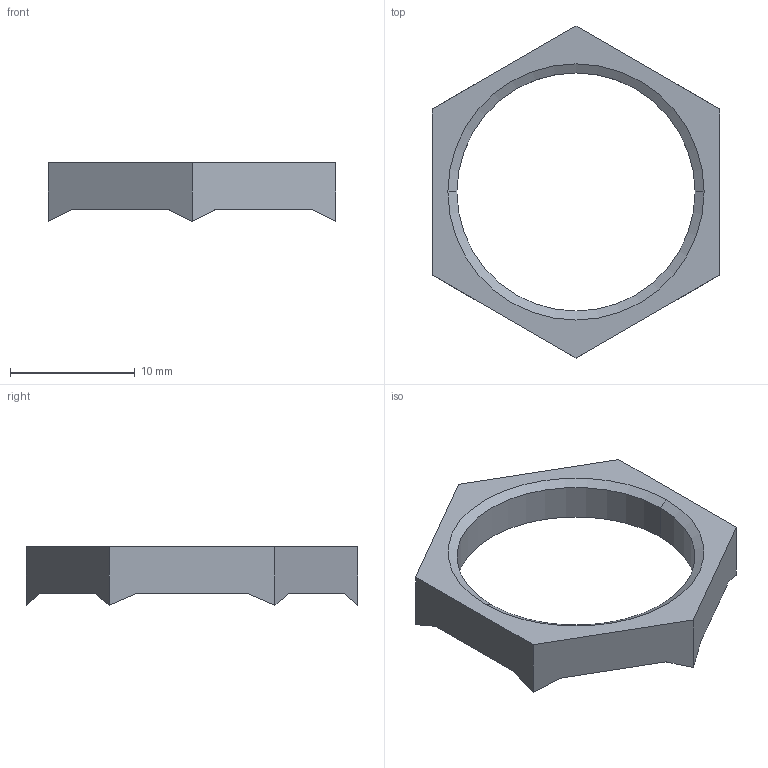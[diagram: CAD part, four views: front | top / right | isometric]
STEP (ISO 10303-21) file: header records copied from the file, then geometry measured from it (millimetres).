
FILE_DESCRIPTION (( 'STEP AP203' ), '1' );
FILE_NAME ('213 MPOT.STEP', '2006-10-26T12:05:54', ( ' ' ), ( '' ), 'SwSTEP 2.0', 'SolidWorks 2005278', '' );
FILE_SCHEMA (( 'CONFIG_CONTROL_DESIGN' ));
Length unit declared in the file: millimetre
Products named in the file (1): 213 MPOT
Bounding box: 23 x 26.56 x 4.68 mm (x, y, z)
Volume: 624.3 mm3; surface area: 844.8 mm2
Topology: 1 solids, 1 shells, 57 faces, 152 edges, 100 vertices
Faces by surface type: plane 45, cone 10, cylinder 2
Entity records: 1853 total; most frequent: CARTESIAN_POINT 358, ORIENTED_EDGE 304, DIRECTION 270, EDGE_CURVE 152, VECTOR 126, LINE 126, VERTEX_POINT 100, AXIS2_PLACEMENT_3D 72
